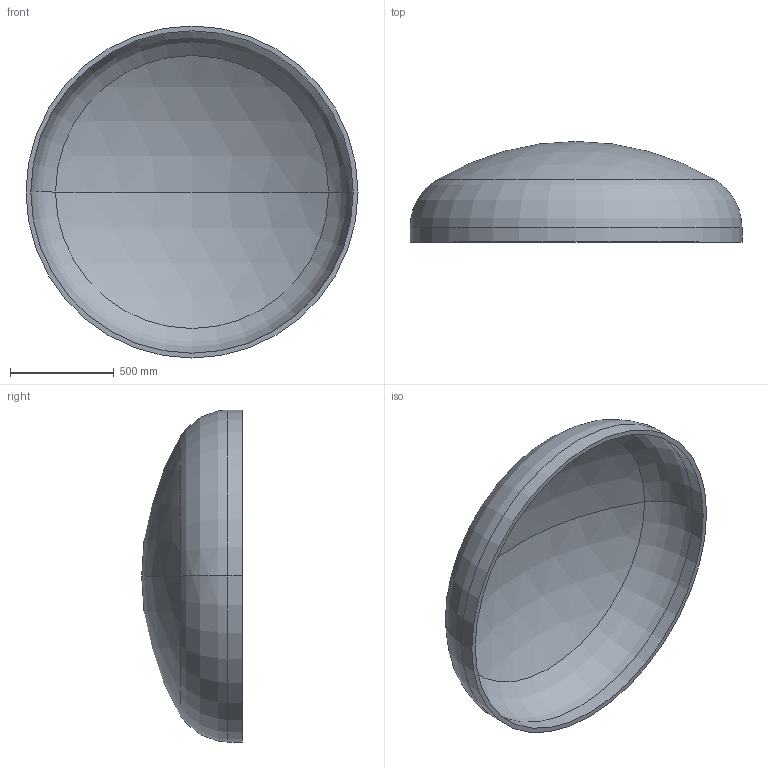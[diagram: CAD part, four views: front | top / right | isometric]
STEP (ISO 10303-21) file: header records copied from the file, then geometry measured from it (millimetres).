
FILE_DESCRIPTION (( 'STEP AP203' ), '1' );
FILE_NAME ('DIN 28013 Korbbogenform_-_Boden DIN 28013 - 1600 x 70 - I - s=23.step', '2016-07-01T11:09:20', ( '' ), ( '' ), 'SwSTEP 2.0', 'SolidWorks 2013', '' );
FILE_SCHEMA (( 'CONFIG_CONTROL_DESIGN' ));
Length unit declared in the file: millimetre
Products named in the file (1): DIN 28013 Korbbogenform_-_Boden DIN 28013 - 1600 x 70 - I - s=23
Bounding box: 1600 x 485.19 x 1600 mm (x, y, z)
Volume: 70748868.2 mm3; surface area: 6267130 mm2
Topology: 1 solids, 1 shells, 13 faces, 24 edges, 14 vertices
Faces by surface type: torus 4, cylinder 4, sphere 4, plane 1
Entity records: 407 total; most frequent: DIRECTION 72, CARTESIAN_POINT 52, ORIENTED_EDGE 48, AXIS2_PLACEMENT_3D 34, EDGE_CURVE 24, CIRCLE 20, VERTEX_POINT 14, EDGE_LOOP 14
